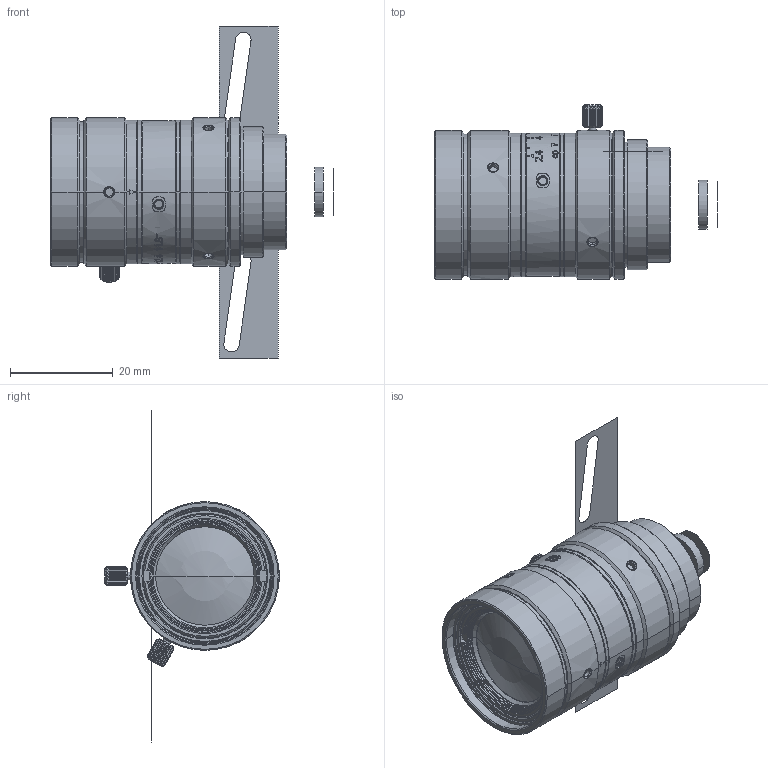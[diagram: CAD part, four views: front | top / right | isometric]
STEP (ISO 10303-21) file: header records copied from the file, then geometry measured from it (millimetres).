
FILE_DESCRIPTION((''),'2;1');
FILE_NAME('MVL-HF1224M-10MP__ASM','2020-07-10T15:04:36',('dihaoping'),(''),'CREO PARAMETRIC BY PTC INC, 2017260','CREO PARAMETRIC BY PTC INC, 2017260','');
FILE_SCHEMA(('CONFIG_CONTROL_DESIGN'));
Length unit declared in the file: millimetre
Products named in the file (7): MVL-HF1224M-10MP_189_1; MVL-HF1224M-10MP_189_2; MVL-HF1224M-10MP_189_ASM; MVL-HF1224M-10MP_372; MVL-HF1224M-10MP_438; MVL-HF1224M-10MP_1_ASM; MVL-HF1224M-10MP__ASM
Assembly tree (7 placements, depth 4):
  MVL-HF1224M-10MP__ASM
    MVL-HF1224M-10MP_1_ASM
      MVL-HF1224M-10MP_189_ASM
        MVL-HF1224M-10MP_189_1
        MVL-HF1224M-10MP_189_2
      MVL-HF1224M-10MP_372
      MVL-HF1224M-10MP_438  x2
Bounding box: 55.07 x 34 x 64.72 mm (x, y, z)
Volume: 25336.5 mm3; surface area: 10575.6 mm2
Topology: 5 solids, 43 shells, 1203 faces, 3424 edges, 2309 vertices
Faces by surface type: plane 550, cylinder 306, bspline 243, cone 94, torus 6, sphere 4
Entity records: 44521 total; most frequent: CARTESIAN_POINT 16402, ORIENTED_EDGE 6128, DIRECTION 5375, EDGE_CURVE 3156, VERTEX_POINT 2132, AXIS2_PLACEMENT_3D 2033, VECTOR 1309, LINE 1309
